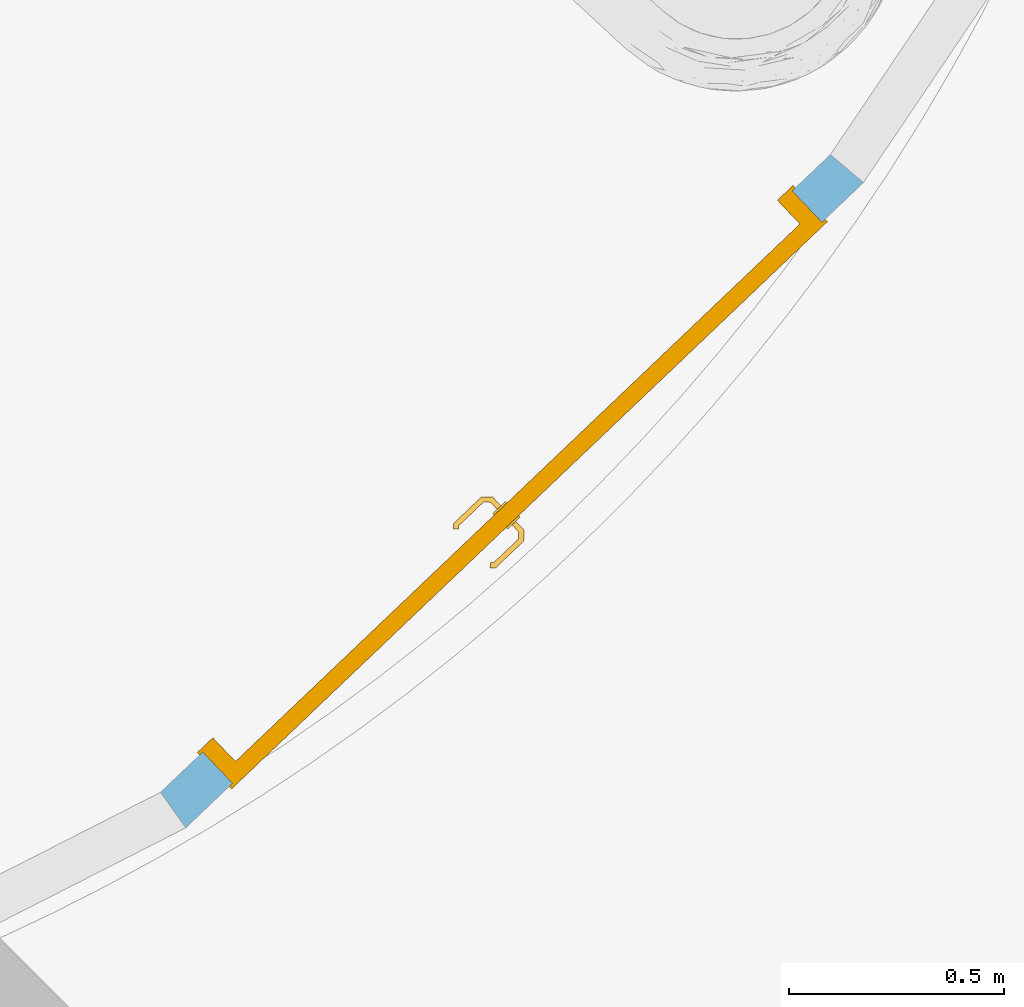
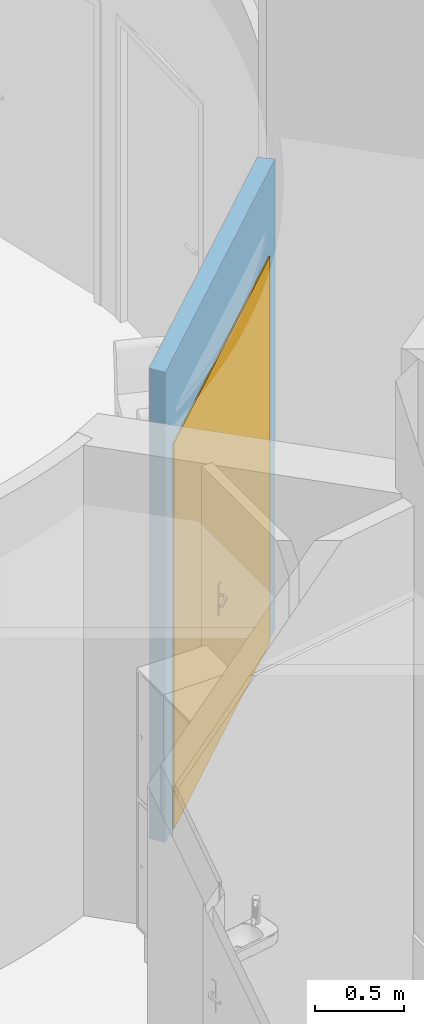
# One storey, part 93 of 137: 1 door, 1 opening, plus 1 element that does not belong to this part.
"""IFC2X3 building model written with IfcOpenShell, lengths in centimetres."""

from ifc_helpers import new_model, entity, si_unit, converted_unit, derived_unit, direction, frame, frame_2d, origin, place, context, subcontext, project, spatial, polyline, rectangle, outline, extrude, faceted_brep, source, transform, mapped, material, material_list, layer, layer_set, layer_usage, type_object, type_shapes, element, fill, save


model = new_model("IFC2X3")

# Units and contexts
model_context = context("Model", 3, precision=0.001, world=origin(), true_north=direction((6.12303176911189e-17, 1.0)))
body_context = subcontext(model_context, "Body", "Model", "MODEL_VIEW")
ifc_project = project(units=[si_unit("LENGTHUNIT", "METRE", prefix="CENTI"), si_unit("AREAUNIT", "SQUARE_METRE"), si_unit("VOLUMEUNIT", "CUBIC_METRE"), converted_unit("PLANEANGLEUNIT", "DEGREE", entity("IfcRatioMeasure", 0.0174532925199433), si_unit("PLANEANGLEUNIT", "RADIAN"), dimensions=[0, 0, 0, 0, 0, 0, 0]), si_unit("MASSUNIT", "GRAM", prefix="KILO"), si_unit("TIMEUNIT", "SECOND"), si_unit("FREQUENCYUNIT", "HERTZ"), si_unit("THERMODYNAMICTEMPERATUREUNIT", "DEGREE_CELSIUS"), derived_unit("THERMALTRANSMITTANCEUNIT", [(si_unit("MASSUNIT", "GRAM", prefix="KILO"), 1), (si_unit("THERMODYNAMICTEMPERATUREUNIT", "KELVIN"), -1), (si_unit("TIMEUNIT", "SECOND"), -3)]), derived_unit("VOLUMETRICFLOWRATEUNIT", [(si_unit("LENGTHUNIT", "METRE"), 3), (si_unit("TIMEUNIT", "SECOND"), -1)]), si_unit("ELECTRICCURRENTUNIT", "AMPERE"), si_unit("ELECTRICVOLTAGEUNIT", "VOLT"), si_unit("POWERUNIT", "WATT"), si_unit("FORCEUNIT", "NEWTON", prefix="KILO"), si_unit("ILLUMINANCEUNIT", "LUX"), si_unit("LUMINOUSFLUXUNIT", "LUMEN"), si_unit("LUMINOUSINTENSITYUNIT", "CANDELA"), derived_unit("USERDEFINED", [(si_unit("MASSUNIT", "GRAM", prefix="KILO"), -1), (si_unit("LENGTHUNIT", "METRE"), -2), (si_unit("TIMEUNIT", "SECOND"), 3), (si_unit("LUMINOUSFLUXUNIT", "LUMEN"), 1)]), derived_unit("LINEARVELOCITYUNIT", [(si_unit("LENGTHUNIT", "METRE"), 1), (si_unit("TIMEUNIT", "SECOND"), -1)]), si_unit("PRESSUREUNIT", "PASCAL"), derived_unit("USERDEFINED", [(si_unit("LENGTHUNIT", "METRE"), -2), (si_unit("MASSUNIT", "GRAM", prefix="KILO"), 1), (si_unit("TIMEUNIT", "SECOND"), -2)])], contexts=[model_context])

# Site, building, storey
site_placement = place(None, frame((8.62739174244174, -249.285249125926, 0.0)))
site = spatial("IfcSite", under=ifc_project, at=site_placement, Name="Default", CompositionType="ELEMENT")
building_placement = place(site_placement, origin())
building = spatial("IfcBuilding", under=site, at=building_placement, CompositionType="ELEMENT")
storey_placement = place(building_placement, origin())
storey = spatial("IfcBuildingStorey", under=building, at=storey_placement, Name="RDC", CompositionType="ELEMENT", Elevation=-8.82465566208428e-11)

# Wall, opening, door
ifc_material_1 = material(Name="Plâtre EXISTANT")
ifc_layer = layer(ifc_material_1, 10.0)
ifc_layer_set = layer_set([ifc_layer], Name="Mur de base:PLA EXISTANT 10")
ifc_layer_usage = layer_usage(ifc_layer_set, "AXIS2", "NEGATIVE", 5.0)
wall_type = type_object("IfcWallType", Name="Mur de base:PLA EXISTANT 10", PredefinedType="STANDARD", material=ifc_layer_set)
wall_placement = place(storey_placement, frame((3442.63145622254, 489.244572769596, 0.0), z_axis=(0.0, 0.0, 1.0), x_axis=(-0.724253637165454, -0.68953366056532, 0.0)))
wall = element("IfcWallStandardCase", 1, at=wall_placement, inside=storey, type_object=wall_type, material=ifc_layer_usage, Name="Mur de base:PLA EXISTANT 10", ObjectType="Mur de base:PLA EXISTANT 10", context=body_context, shape_type="SweptSolid", body=[
    extrude(outline(polyline([(1.08694758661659, -5.0), (215.819808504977, -5.0), (217.278045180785, 5.0), (0.0, 5.0), (1.08694758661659, -5.0)])), origin(), (0.0, 0.0, 1.0), 322.000000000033),
])
opening_placement = place(wall_placement, frame((13.299399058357, -5.0, 0.0)))
opening = element("IfcOpeningElement", 2, at=opening_placement, cuts=wall, Name="Double(R)_bois_Existant_mu:183 x 260 cm:1", ObjectType="Opening", context=body_context, shape_type="SweptSolid", body=[
    extrude(rectangle(XDim=263.0, YDim=189.0, at=frame_2d((131.5, 94.4999999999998), x_axis=(1.0, 0.0))), frame((0.0, 0.0, 0.0), z_axis=(0.0, 1.0, 0.0), x_axis=(0.0, 0.0, 1.0)), (0.0, 0.0, 1.0), 10.0),
])
ifc_material_2 = material(Name="Porte - Poignée")
ifc_material_3 = material(Name="Porte - Cadre")
ifc_material_4 = material(Name="Porte - Panneau")
ifc_material_list_1 = material_list([ifc_material_2, ifc_material_3, ifc_material_4])
ifc_material_list_2 = material_list([ifc_material_2, ifc_material_3, ifc_material_4])
door_style = type_object("IfcDoorStyle", Name="183 x 260 cm", ConstructionType="NOTDEFINED", OperationType="DOUBLE_DOOR_SINGLE_SWING", ParameterTakesPrecedence=False, Sizeable=False, material=ifc_material_list_2)
shared_shape = source(origin(), body_context, "Body", "Brep", [
    faceted_brep([(89.2025298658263, 3.69999999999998, 100.778044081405), (88.7974701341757, 3.69999999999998, 100.778044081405), (88.3999999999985, 3.69999999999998, 100.699999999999), (88.4000000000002, 3.69999999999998, 99.3000000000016), (88.7974701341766, 3.69999999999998, 99.2219559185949), (89.2025298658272, 3.69999999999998, 99.2219559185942), (89.6000000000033, 3.69999999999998, 99.2999999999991), (89.600000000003, 3.69999999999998, 100.699999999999), (88.3999999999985, 5.94852045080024, 100.699999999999), (88.3999999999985, 5.94852045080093, 99.3000000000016), (88.7974701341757, 6.1131579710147, 100.778044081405), (89.2025298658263, 6.2809392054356, 100.778044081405), (87.583890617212, 7.89957845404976, 100.778044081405), (87.4161093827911, 7.49451872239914, 100.778044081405), (79.0793122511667, 7.49451872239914, 100.778044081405), (78.9115310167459, 7.89957845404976, 100.778044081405), (78.145104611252, 7.13315204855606, 100.778044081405), (78.4315250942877, 6.84673156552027, 100.778044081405), (89.6000000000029, 6.44557672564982, 100.699999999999), (89.6000000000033, 6.44557672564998, 99.2999999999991), (89.2025298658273, 6.28093920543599, 99.2219559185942), (88.7974701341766, 6.11315797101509, 99.2219559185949), (87.4161093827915, 7.49451872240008, 99.2219559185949), (87.5838906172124, 7.8995784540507, 99.2219559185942), (78.9115310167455, 7.8995784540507, 99.2219559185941), (79.0793122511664, 7.49451872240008, 99.2219559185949), (78.4315250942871, 6.84673156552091, 99.2219559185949), (78.1451046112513, 7.1331520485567, 99.2219559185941), (87.2514718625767, 7.09704858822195, 100.699999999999), (87.2514718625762, 7.09704858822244, 99.3000000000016), (87.7485281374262, 8.29704858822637, 100.699999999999), (87.7485281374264, 8.29704858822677, 99.2999999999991), (83.2477108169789, 7.09704858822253, 100.699999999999), (79.2439497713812, 7.09704858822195, 100.699999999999), (79.2439497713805, 7.09704858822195, 99.3000000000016), (83.2477108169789, 7.09704858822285, 99.3000000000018), (83.2477108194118, 7.71249275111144, 100.787811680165), (82.7399422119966, 8.29704858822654, 100.699999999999), (78.7468934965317, 8.29704858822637, 100.699999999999), (83.7554791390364, 8.29704858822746, 99.2999999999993), (78.7468934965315, 8.29704858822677, 99.2999999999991), (83.247710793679, 7.71249274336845, 99.2121883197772), (77.8640507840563, 7.41420587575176, 100.699999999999), (77.8640507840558, 7.41420587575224, 99.2999999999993), (78.7125789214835, 6.5656777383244, 99.3000000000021), (78.7125789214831, 6.56567773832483, 100.699999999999)], [[[0, 1, 2, 3, 4, 5, 6, 7]], [[8, 9, 3, 2]], [[1, 10, 8, 2]], [[1, 0, 11, 12, 13, 10]], [[14, 15, 16, 17]], [[7, 18, 11, 0]], [[18, 7, 6, 19]], [[6, 5, 20, 19]], [[5, 4, 21, 22, 23, 20]], [[24, 25, 26, 27]], [[4, 3, 9, 21]], [[28, 29, 9, 8]], [[8, 10, 13, 28]], [[18, 30, 12, 11]], [[31, 30, 18, 19]], [[19, 20, 23, 31]], [[21, 9, 29, 22]], [[29, 28, 32, 33, 34, 35]], [[36, 32, 13]], [[37, 38, 15]], [[37, 12, 30]], [[36, 12, 37]], [[14, 32, 36]], [[36, 15, 14]], [[28, 13, 32]], [[32, 14, 33]], [[12, 36, 13]], [[15, 36, 37]], [[30, 31, 39, 40, 38, 37]], [[23, 41, 39]], [[24, 39, 41]], [[39, 31, 23]], [[39, 24, 40]], [[22, 35, 41]], [[41, 23, 22]], [[41, 35, 25]], [[35, 22, 29]], [[34, 25, 35]], [[24, 41, 25]], [[17, 16, 42, 43, 27, 26, 44, 45]], [[45, 44, 34, 33]], [[33, 14, 17, 45]], [[15, 38, 42, 16]], [[43, 42, 38, 40]], [[24, 27, 43, 40]], [[34, 44, 26, 25]]]),
    faceted_brep([(88.7974701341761, -1.30000000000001, 100.778044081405), (89.2025298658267, -1.30000000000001, 100.778044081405), (89.6000000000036, -1.30000000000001, 100.699999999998), (89.6000000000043, -1.30000000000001, 99.2999999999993), (89.2025298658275, -1.30000000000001, 99.2219559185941), (88.7974701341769, -1.30000000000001, 99.2219559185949), (88.3999999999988, -1.30000000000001, 99.3000000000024), (88.3999999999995, -1.30000000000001, 100.699999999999), (89.2025298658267, -3.90045754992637, 100.778044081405), (89.6000000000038, -4.06509507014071, 100.699999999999), (88.7974701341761, -3.73267631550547, 100.778044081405), (87.4298602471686, -5.10028620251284, 100.778044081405), (87.5976414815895, -5.50534593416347, 100.778044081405), (78.9142453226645, -5.50534593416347, 100.778044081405), (79.0820265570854, -5.10028620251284, 100.778044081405), (78.4342394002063, -4.4524990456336, 100.778044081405), (78.1478189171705, -4.73891952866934, 100.778044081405), (88.3999999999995, -3.56803879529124, 100.699999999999), (88.3999999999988, -3.56803879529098, 99.3000000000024), (88.7974701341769, -3.7326763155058, 99.2219559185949), (89.2025298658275, -3.9004575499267, 99.2219559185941), (87.5976414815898, -5.50534593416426, 99.2219559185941), (87.4298602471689, -5.10028620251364, 99.2219559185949), (79.0820265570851, -5.10028620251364, 99.2219559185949), (78.9142453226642, -5.50534593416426, 99.2219559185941), (78.1478189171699, -4.73891952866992, 99.2219559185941), (78.4342394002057, -4.45249904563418, 99.2219559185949), (89.6000000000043, -4.06509507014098, 99.2999999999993), (87.7622790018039, -5.90281606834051, 100.699999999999), (87.2652227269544, -4.70281606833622, 100.699999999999), (87.2652227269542, -4.70281606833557, 99.3000000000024), (87.7622790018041, -5.90281606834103, 99.2999999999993), (83.255943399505, -5.31828027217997, 100.787811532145), (83.7692302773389, -5.90281606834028, 100.699999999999), (78.7496078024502, -5.90281606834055, 100.699999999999), (83.2559434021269, -4.70281606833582, 100.699999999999), (79.2466640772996, -4.70281606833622, 100.699999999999), (83.2559436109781, -4.70281606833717, 99.3000000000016), (79.2466640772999, -4.70281606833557, 99.3000000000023), (83.2559434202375, -5.31828027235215, 99.2121884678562), (82.7426572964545, -5.90281606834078, 99.2999999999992), (78.7496078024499, -5.90281606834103, 99.2999999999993), (78.715293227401, -4.17144521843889, 99.3000000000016), (77.8667650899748, -5.01997335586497, 99.2999999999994), (77.8667650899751, -5.01997335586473, 100.699999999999), (78.7152932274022, -4.17144521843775, 100.699999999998)], [[[0, 1, 2, 3, 4, 5, 6, 7]], [[2, 1, 8, 9]], [[1, 0, 10, 11, 12, 8]], [[13, 14, 15, 16]], [[0, 7, 17, 10]], [[18, 17, 7, 6]], [[5, 19, 18, 6]], [[5, 4, 20, 21, 22, 19]], [[23, 24, 25, 26]], [[3, 27, 20, 4]], [[9, 27, 3, 2]], [[9, 8, 12, 28]], [[10, 17, 29, 11]], [[30, 29, 17, 18]], [[18, 19, 22, 30]], [[20, 27, 31, 21]], [[28, 31, 27, 9]], [[12, 32, 33]], [[13, 33, 32]], [[33, 28, 12]], [[33, 13, 34]], [[11, 35, 32]], [[32, 12, 11]], [[32, 35, 14]], [[35, 11, 29]], [[36, 14, 35]], [[13, 32, 14]], [[29, 30, 37, 38, 36, 35]], [[39, 37, 22]], [[40, 41, 24]], [[40, 21, 31]], [[39, 21, 40]], [[23, 37, 39]], [[39, 24, 23]], [[30, 22, 37]], [[37, 23, 38]], [[21, 39, 22]], [[24, 39, 40]], [[31, 28, 33, 34, 41, 40]], [[42, 26, 25, 43, 44, 16, 15, 45]], [[13, 16, 44, 34]], [[36, 45, 15, 14]], [[42, 45, 36, 38]], [[38, 23, 26, 42]], [[24, 41, 43, 25]], [[44, 43, 41, 34]]]),
    faceted_brep([(89.0, 3.19999999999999, 86.4641016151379), (90.0352761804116, 3.19999999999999, 86.6003983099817), (91.0, 3.19999999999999, 87.0), (91.0, 3.19999999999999, 108.0), (90.0352761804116, 3.19999999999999, 108.399601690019), (89.0, 3.19999999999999, 108.535898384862), (87.9647238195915, 3.19999999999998, 108.399601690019), (87.0, 3.19999999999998, 108.0), (87.0, 3.19999999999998, 87.0), (87.9647238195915, 3.19999999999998, 86.6003983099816), (89.0, 3.69999999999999, 108.535898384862), (90.0352761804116, 3.69999999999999, 108.399601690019), (91.0, 3.69999999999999, 108.0), (91.0, 3.69999999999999, 87.0), (90.0352761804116, 3.69999999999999, 86.6003983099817), (89.0, 3.69999999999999, 86.4641016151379), (87.9647238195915, 3.69999999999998, 86.6003983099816), (87.0, 3.69999999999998, 87.0), (87.0, 3.69999999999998, 108.0), (87.9647238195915, 3.69999999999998, 108.399601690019)], [[[0, 1, 2, 3, 4, 5, 6, 7, 8, 9]], [[10, 11, 12, 13, 14, 15, 16, 17, 18, 19]], [[6, 19, 18, 7]], [[5, 10, 19, 6]], [[4, 11, 10, 5]], [[4, 3, 12, 11]], [[12, 3, 2, 13]], [[1, 14, 13, 2]], [[0, 15, 14, 1]], [[9, 16, 15, 0]], [[9, 8, 17, 16]], [[17, 8, 7, 18]]]),
    faceted_brep([(89.0, -1.30000000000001, 86.4641016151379), (90.0352761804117, -1.30000000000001, 86.6003983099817), (91.0, -1.3, 87.0), (91.0, -1.3, 108.0), (90.0352761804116, -1.30000000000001, 108.399601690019), (89.0, -1.30000000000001, 108.535898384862), (87.9647238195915, -1.30000000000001, 108.399601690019), (87.0, -1.30000000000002, 108.0), (87.0, -1.30000000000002, 87.0), (87.9647238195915, -1.30000000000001, 86.6003983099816), (91.0, -0.800000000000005, 108.0), (91.0, -0.800000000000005, 87.0), (90.0352761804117, -0.800000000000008, 86.6003983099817), (89.0, -0.800000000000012, 86.4641016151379), (87.9647238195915, -0.800000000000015, 86.6003983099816), (87.0, -0.800000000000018, 87.0), (87.0, -0.800000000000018, 108.0), (87.9647238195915, -0.800000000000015, 108.399601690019), (89.0, -0.800000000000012, 108.535898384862), (90.0352761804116, -0.800000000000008, 108.399601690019)], [[[0, 1, 2, 3, 4, 5, 6, 7, 8, 9]], [[10, 11, 12, 13, 14, 15, 16, 17, 18, 19]], [[1, 12, 11, 2]], [[0, 13, 12, 1]], [[9, 14, 13, 0]], [[9, 8, 15, 14]], [[15, 8, 7, 16]], [[6, 17, 16, 7]], [[5, 18, 17, 6]], [[4, 19, 18, 5]], [[4, 3, 10, 19]], [[10, 3, 2, 11]]]),
    faceted_brep([(189.0, 0.0, 0.0), (190.0, 0.0, 0.0), (190.0, -0.799999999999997, 0.0), (186.0, -0.799999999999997, 0.0), (186.0, 3.2, 0.0), (185.0, 3.2, 0.0), (185.0, 10.8000000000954, 0.0), (190.0, 10.8000000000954, 0.0), (190.0, 10.0, 0.0), (189.0, 10.0, 0.0), (189.0, 10.0, 263.0), (189.0, 0.0, 263.0), (190.0, 10.0, 264.0), (-1.0, 10.0, 264.0), (-1.0, 10.0, 0.0), (0.0, 10.0, 0.0), (0.0, 10.0, 263.0), (190.0, 10.8000000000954, 264.0), (185.0, 10.8000000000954, 259.0), (4.0, 10.8000000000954, 259.0), (4.0, 10.8000000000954, 0.0), (-1.0, 10.8000000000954, 0.0), (-1.0, 10.8000000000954, 264.0), (185.0, 3.2, 259.0), (186.0, 3.2, 260.0), (3.0, 3.2, 260.0), (3.0, 3.2, 0.0), (4.0, 3.2, 0.0), (4.0, 3.2, 259.0), (186.0, -0.799999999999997, 260.0), (190.0, -0.799999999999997, 264.0), (-1.0, -0.799999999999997, 264.0), (-1.0, -0.799999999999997, 0.0), (3.0, -0.799999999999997, 0.0), (3.0, -0.799999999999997, 260.0), (190.0, 0.0, 264.0), (0.0, 0.0, 263.0), (0.0, 0.0, 0.0), (-1.0, 0.0, 0.0), (-1.0, 0.0, 264.0)], [[[0, 1, 2, 3, 4, 5, 6, 7, 8, 9]], [[9, 10, 11, 0]], [[8, 12, 13, 14, 15, 16, 10, 9]], [[7, 17, 12, 8]], [[6, 18, 19, 20, 21, 22, 17, 7]], [[5, 23, 18, 6]], [[4, 24, 25, 26, 27, 28, 23, 5]], [[3, 29, 24, 4]], [[2, 30, 31, 32, 33, 34, 29, 3]], [[1, 35, 30, 2]], [[0, 11, 36, 37, 38, 39, 35, 1]], [[16, 15, 37, 36]], [[37, 15, 14, 21, 20, 27, 26, 33, 32, 38]], [[22, 21, 14, 13]], [[28, 27, 20, 19]], [[34, 33, 26, 25]], [[39, 38, 32, 31]], [[10, 16, 36, 11]], [[17, 22, 13, 12]], [[23, 28, 19, 18]], [[29, 34, 25, 24]], [[35, 39, 31, 30]]]),
    faceted_brep([(3.0, -0.799999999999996, 0.0), (94.5000000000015, -0.799999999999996, 0.0), (94.5000000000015, -0.799999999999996, 260.0), (3.0, -0.799999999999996, 260.0), (3.0, 3.2, 0.0), (3.0, 3.2, 260.0), (94.5000000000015, 3.2, 260.0), (94.5000000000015, 3.2, 0.0)], [[[0, 1, 2, 3]], [[4, 5, 6, 7]], [[3, 5, 4, 0]], [[2, 6, 5, 3]], [[1, 7, 6, 2]], [[0, 4, 7, 1]]]),
    faceted_brep([(186.0, -0.799999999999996, 260.0), (94.5000000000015, -0.799999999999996, 260.0), (94.5000000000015, -0.799999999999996, 0.0), (186.0, -0.799999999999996, 0.0), (186.0, 3.2, 260.0), (186.0, 3.2, 0.0), (94.5000000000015, 3.2, 0.0), (94.5000000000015, 3.2, 260.0)], [[[0, 1, 2, 3]], [[4, 5, 6, 7]], [[3, 5, 4, 0]], [[2, 6, 5, 3]], [[1, 7, 6, 2]], [[0, 4, 7, 1]]]),
])
type_shapes(door_style, [shared_shape])
door_placement = place(opening_placement, frame((189.0, 10.0, 0.0), z_axis=(0.0, 0.0, 1.0), x_axis=(-1.0, 0.0, 0.0)))
door = element("IfcDoor", 3, at=door_placement, inside=storey, type_object=door_style, material=ifc_material_list_1, Name="Double(R)_bois_Existant_mu:183 x 260 cm", ObjectType="183 x 260 cm", OverallHeight=263.0, OverallWidth=189.0, context=body_context, shape_type="MappedRepresentation", body=[
    mapped(shared_shape, transform((0.0, 0.0, 0.0), scale=1.0)),
])
fill(opening, door)

save(model, "model.ifc")
